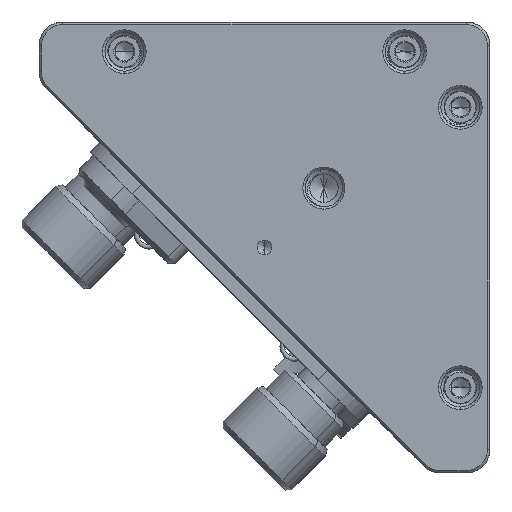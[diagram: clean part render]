
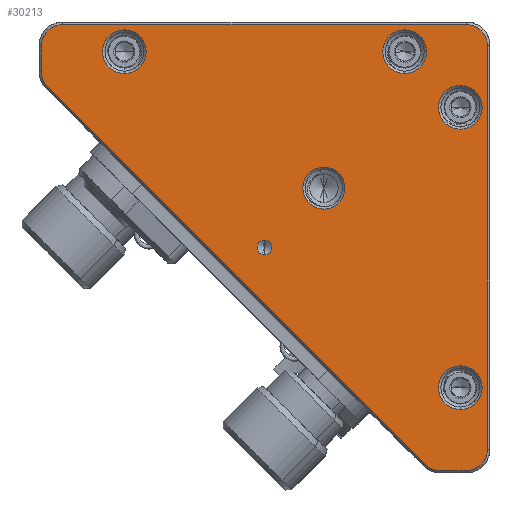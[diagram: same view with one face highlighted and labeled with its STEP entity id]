
A CAD part, front view. The second image highlights one B-rep face of the part: STEP entity #30213.
In plain terms, the highlighted planar face has unit normal (0, -1, 0).
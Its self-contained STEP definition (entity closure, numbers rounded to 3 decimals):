
#12238=CARTESIAN_POINT('',(-90.488,-7.25,
26.084));
#12239=DIRECTION('',(0.,-1.,0.));
#12240=DIRECTION('',(0.,0.,-1.));
#12241=AXIS2_PLACEMENT_3D('',#12238,#12239,#12240);
#12243=CARTESIAN_POINT('',(-93.256,-7.25,
26.084));
#12244=DIRECTION('',(0.,-1.,0.));
#12245=DIRECTION('',(-0.707,0.,-0.707));
#12246=AXIS2_PLACEMENT_3D('',#12243,#12244,#12245);
#12248=DIRECTION('',(0.707,0.,-0.707));
#12249=VECTOR('',#12248,57.15);
#12250=CARTESIAN_POINT('',(-135.284,-7.25,
64.879));
#12251=LINE('',#12250,#12249);
#12252=CARTESIAN_POINT('',(-133.668,-7.25,
66.495));
#12253=DIRECTION('',(0.,-1.,0.));
#12254=DIRECTION('',(-1.,0.,0.));
#12255=AXIS2_PLACEMENT_3D('',#12252,#12253,#12254);
#12257=CARTESIAN_POINT('',(-133.668,-7.25,
69.264));
#12258=DIRECTION('',(0.,-1.,0.));
#12259=DIRECTION('',(0.,0.,1.));
#12260=AXIS2_PLACEMENT_3D('',#12257,#12258,#12259);
#12262=CARTESIAN_POINT('',(-90.488,-7.25,
69.264));
#12263=DIRECTION('',(0.,-1.,0.));
#12264=DIRECTION('',(1.,0.,0.));
#12265=AXIS2_PLACEMENT_3D('',#12262,#12263,#12264);
#12267=CARTESIAN_POINT('',(-91.123,-7.25,
32.674));
#12268=DIRECTION('',(0.,1.,0.));
#12269=DIRECTION('',(0.,0.,-1.));
#12270=AXIS2_PLACEMENT_3D('',#12267,#12268,#12269);
#12272=CARTESIAN_POINT('',(-91.123,-7.25,
32.674));
#12273=DIRECTION('',(0.,1.,0.));
#12274=DIRECTION('',(0.,0.,1.));
#12275=AXIS2_PLACEMENT_3D('',#12272,#12273,#12274);
#12277=CARTESIAN_POINT('',(-91.123,-7.25,
62.674));
#12278=DIRECTION('',(0.,1.,0.));
#12279=DIRECTION('',(0.,0.,-1.));
#12280=AXIS2_PLACEMENT_3D('',#12277,#12278,#12279);
#12282=CARTESIAN_POINT('',(-91.123,-7.25,
62.674));
#12283=DIRECTION('',(0.,1.,0.));
#12284=DIRECTION('',(0.,0.,1.));
#12285=AXIS2_PLACEMENT_3D('',#12282,#12283,#12284);
#12287=CARTESIAN_POINT('',(-97.078,-7.25,
68.629));
#12288=DIRECTION('',(0.,1.,0.));
#12289=DIRECTION('',(0.,0.,-1.));
#12290=AXIS2_PLACEMENT_3D('',#12287,#12288,#12289);
#12292=CARTESIAN_POINT('',(-97.078,-7.25,
68.629));
#12293=DIRECTION('',(0.,1.,0.));
#12294=DIRECTION('',(0.,0.,1.));
#12295=AXIS2_PLACEMENT_3D('',#12292,#12293,#12294);
#12297=CARTESIAN_POINT('',(-127.078,-7.25,
68.629));
#12298=DIRECTION('',(0.,1.,0.));
#12299=DIRECTION('',(0.,0.,-1.));
#12300=AXIS2_PLACEMENT_3D('',#12297,#12298,#12299);
#12302=CARTESIAN_POINT('',(-127.078,-7.25,
68.629));
#12303=DIRECTION('',(0.,1.,0.));
#12304=DIRECTION('',(0.,0.,1.));
#12305=AXIS2_PLACEMENT_3D('',#12302,#12303,#12304);
#12307=CARTESIAN_POINT('',(-105.728,-7.25,
54.024));
#12308=DIRECTION('',(0.,1.,0.));
#12309=DIRECTION('',(0.,0.,-1.));
#12310=AXIS2_PLACEMENT_3D('',#12307,#12308,#12309);
#12312=CARTESIAN_POINT('',(-105.728,-7.25,
54.024));
#12313=DIRECTION('',(0.,1.,0.));
#12314=DIRECTION('',(0.,0.,1.));
#12315=AXIS2_PLACEMENT_3D('',#12312,#12313,#12314);
#12317=CARTESIAN_POINT('',(-112.078,-7.25,
47.674));
#12318=DIRECTION('',(0.,1.,0.));
#12319=DIRECTION('',(0.,0.,1.));
#12320=AXIS2_PLACEMENT_3D('',#12317,#12318,#12319);
#12322=CARTESIAN_POINT('',(-112.078,-7.25,
47.674));
#12323=DIRECTION('',(0.,1.,0.));
#12324=DIRECTION('',(0.,0.,-1.));
#12325=AXIS2_PLACEMENT_3D('',#12322,#12323,#12324);
#12327=DIRECTION('',(0.,0.,-1.));
#12328=VECTOR('',#12327,43.18);
#12329=CARTESIAN_POINT('',(-88.202,-7.25,
69.264));
#12330=LINE('',#12329,#12328);
#12495=DIRECTION('',(1.,0.,0.));
#12496=VECTOR('',#12495,43.18);
#12497=CARTESIAN_POINT('',(-133.668,-7.25,
71.55));
#12498=LINE('',#12497,#12496);
#12520=DIRECTION('',(0.,0.,1.));
#12521=VECTOR('',#12520,2.769);
#12522=CARTESIAN_POINT('',(-135.954,-7.25,
66.495));
#12523=LINE('',#12522,#12521);
#12622=DIRECTION('',(-1.,0.,0.));
#12623=VECTOR('',#12622,2.769);
#12624=CARTESIAN_POINT('',(-90.488,-7.25,
23.798));
#12625=LINE('',#12624,#12623);
#19251=CARTESIAN_POINT('',(-135.284,-7.25,
64.879));
#19253=VERTEX_POINT('',#19251);
#19304=CARTESIAN_POINT('',(-90.488,-7.25,
23.798));
#19305=CARTESIAN_POINT('',(-88.202,-7.25,
26.084));
#19306=VERTEX_POINT('',#19304);
#19307=VERTEX_POINT('',#19305);
#19329=CARTESIAN_POINT('',(-135.954,-7.25,
66.495));
#19330=VERTEX_POINT('',#19329);
#19341=CARTESIAN_POINT('',(-88.202,-7.25,
69.264));
#19342=VERTEX_POINT('',#19341);
#19479=CARTESIAN_POINT('',(-112.078,-7.25,
48.468));
#19480=CARTESIAN_POINT('',(-112.078,-7.25,
46.88));
#19481=VERTEX_POINT('',#19479);
#19482=VERTEX_POINT('',#19480);
#19485=CARTESIAN_POINT('',(-93.256,-7.25,
23.798));
#19486=VERTEX_POINT('',#19485);
#19487=CARTESIAN_POINT('',(-97.078,-7.25,
66.292));
#19489=VERTEX_POINT('',#19487);
#19501=CARTESIAN_POINT('',(-91.123,-7.25,
30.337));
#19502=CARTESIAN_POINT('',(-91.123,-7.25,
35.011));
#19503=VERTEX_POINT('',#19501);
#19504=VERTEX_POINT('',#19502);
#19524=CARTESIAN_POINT('',(-90.488,-7.25,
71.55));
#19525=VERTEX_POINT('',#19524);
#19532=CARTESIAN_POINT('',(-127.078,-7.25,
66.292));
#19534=VERTEX_POINT('',#19532);
#19570=CARTESIAN_POINT('',(-135.954,-7.25,
69.264));
#19571=VERTEX_POINT('',#19570);
#19580=CARTESIAN_POINT('',(-105.728,-7.25,
51.77));
#19582=VERTEX_POINT('',#19580);
#19600=CARTESIAN_POINT('',(-127.078,-7.25,
70.966));
#19601=VERTEX_POINT('',#19600);
#19608=CARTESIAN_POINT('',(-97.078,-7.25,
70.966));
#19609=VERTEX_POINT('',#19608);
#19610=CARTESIAN_POINT('',(-105.728,-7.25,
56.278));
#19612=VERTEX_POINT('',#19610);
#19643=CARTESIAN_POINT('',(-91.123,-7.25,
60.337));
#19644=VERTEX_POINT('',#19643);
#19692=CARTESIAN_POINT('',(-133.668,-7.25,
71.55));
#19693=VERTEX_POINT('',#19692);
#19766=CARTESIAN_POINT('',(-91.123,-7.25,
65.011));
#19767=VERTEX_POINT('',#19766);
#19807=CARTESIAN_POINT('',(-94.873,-7.25,
24.467));
#19808=VERTEX_POINT('',#19807);
#30153=CARTESIAN_POINT('',(-93.256,-7.25,
26.084));
#30154=DIRECTION('',(0.,1.,0.));
#30155=DIRECTION('',(0.,0.,1.));
#30156=AXIS2_PLACEMENT_3D('',#30153,#30154,#30155);
#30157=PLANE('',#30156);
#30159=ORIENTED_EDGE('',*,*,#30158,.T.);
#30161=ORIENTED_EDGE('',*,*,#30160,.F.);
#30163=ORIENTED_EDGE('',*,*,#30162,.T.);
#30165=ORIENTED_EDGE('',*,*,#30164,.F.);
#30167=ORIENTED_EDGE('',*,*,#30166,.F.);
#30169=ORIENTED_EDGE('',*,*,#30168,.F.);
#30171=ORIENTED_EDGE('',*,*,#30170,.T.);
#30173=ORIENTED_EDGE('',*,*,#30172,.F.);
#30175=ORIENTED_EDGE('',*,*,#30174,.T.);
#30177=ORIENTED_EDGE('',*,*,#30176,.F.);
#30178=EDGE_LOOP('',(#30159,#30161,#30163,#30165,#30167,#30169,#30171,#30173,
#30175,#30177));
#30179=FACE_OUTER_BOUND('',#30178,.F.);
#30181=ORIENTED_EDGE('',*,*,#30180,.F.);
#30183=ORIENTED_EDGE('',*,*,#30182,.F.);
#30184=EDGE_LOOP('',(#30181,#30183));
#30185=FACE_BOUND('',#30184,.F.);
#30186=ORIENTED_EDGE('',*,*,#30147,.F.);
#30187=ORIENTED_EDGE('',*,*,#30132,.F.);
#30188=EDGE_LOOP('',(#30186,#30187));
#30189=FACE_BOUND('',#30188,.F.);
#30191=ORIENTED_EDGE('',*,*,#30190,.F.);
#30193=ORIENTED_EDGE('',*,*,#30192,.F.);
#30194=EDGE_LOOP('',(#30191,#30193));
#30195=FACE_BOUND('',#30194,.F.);
#30196=ORIENTED_EDGE('',*,*,#20582,.F.);
#30198=ORIENTED_EDGE('',*,*,#30197,.F.);
#30199=EDGE_LOOP('',(#30196,#30198));
#30200=FACE_BOUND('',#30199,.F.);
#30202=ORIENTED_EDGE('',*,*,#30201,.F.);
#30204=ORIENTED_EDGE('',*,*,#30203,.F.);
#30205=EDGE_LOOP('',(#30202,#30204));
#30206=FACE_BOUND('',#30205,.F.);
#30208=ORIENTED_EDGE('',*,*,#30207,.F.);
#30210=ORIENTED_EDGE('',*,*,#30209,.F.);
#30211=EDGE_LOOP('',(#30208,#30210));
#30212=FACE_BOUND('',#30211,.F.);
#30213=ADVANCED_FACE('',(#30179,#30185,#30189,#30195,#30200,#30206,#30212),
#30157,.F.);
#12242=CIRCLE('',#12241,2.286);
#12247=CIRCLE('',#12246,2.286);
#12256=CIRCLE('',#12255,2.286);
#12261=CIRCLE('',#12260,2.286);
#12266=CIRCLE('',#12265,2.286);
#12271=CIRCLE('',#12270,2.337);
#12276=CIRCLE('',#12275,2.337);
#12281=CIRCLE('',#12280,2.337);
#12286=CIRCLE('',#12285,2.337);
#12291=CIRCLE('',#12290,2.337);
#12296=CIRCLE('',#12295,2.337);
#12301=CIRCLE('',#12300,2.337);
#12306=CIRCLE('',#12305,2.337);
#12311=CIRCLE('',#12310,2.254);
#12316=CIRCLE('',#12315,2.254);
#12321=CIRCLE('',#12320,0.794);
#12326=CIRCLE('',#12325,0.794);
#20582=EDGE_CURVE('',#19534,#19601,#12301,.T.);
#30132=EDGE_CURVE('',#19767,#19644,#12286,.T.);
#30147=EDGE_CURVE('',#19644,#19767,#12281,.T.);
#30158=EDGE_CURVE('',#19342,#19307,#12330,.T.);
#30160=EDGE_CURVE('',#19306,#19307,#12242,.T.);
#30162=EDGE_CURVE('',#19306,#19486,#12625,.T.);
#30164=EDGE_CURVE('',#19808,#19486,#12247,.T.);
#30166=EDGE_CURVE('',#19253,#19808,#12251,.T.);
#30168=EDGE_CURVE('',#19330,#19253,#12256,.T.);
#30170=EDGE_CURVE('',#19330,#19571,#12523,.T.);
#30172=EDGE_CURVE('',#19693,#19571,#12261,.T.);
#30174=EDGE_CURVE('',#19693,#19525,#12498,.T.);
#30176=EDGE_CURVE('',#19342,#19525,#12266,.T.);
#30180=EDGE_CURVE('',#19503,#19504,#12271,.T.);
#30182=EDGE_CURVE('',#19504,#19503,#12276,.T.);
#30190=EDGE_CURVE('',#19489,#19609,#12291,.T.);
#30192=EDGE_CURVE('',#19609,#19489,#12296,.T.);
#30197=EDGE_CURVE('',#19601,#19534,#12306,.T.);
#30201=EDGE_CURVE('',#19582,#19612,#12311,.T.);
#30203=EDGE_CURVE('',#19612,#19582,#12316,.T.);
#30207=EDGE_CURVE('',#19481,#19482,#12321,.T.);
#30209=EDGE_CURVE('',#19482,#19481,#12326,.T.);
